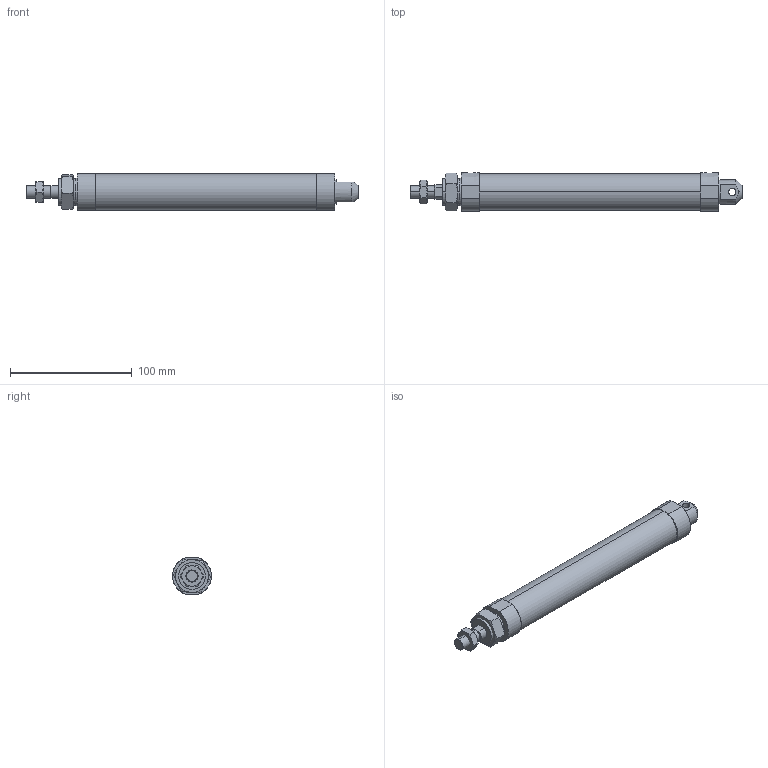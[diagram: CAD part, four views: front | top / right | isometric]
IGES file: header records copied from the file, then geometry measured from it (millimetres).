
Start section: SolidWorks IGES file using analytic representation for surfaces
Global section: file name: C:\Users\Toshiba\Desktop\J#2-25-150-C.IGS; native system: SolidWorks 2014; preprocessor: SolidWorks 2014; author: Toshiba; date: 160308.152653; units: millimetre
Bounding box: 273 x 32 x 30 mm (x, y, z)
Surface area: 28878.3 mm2 (no closed solid volume)
Topology: 0 solids, 0 shells, 96 faces, 1824 edges, 1824 vertices
Faces by surface type: bspline 64, revolution 32
